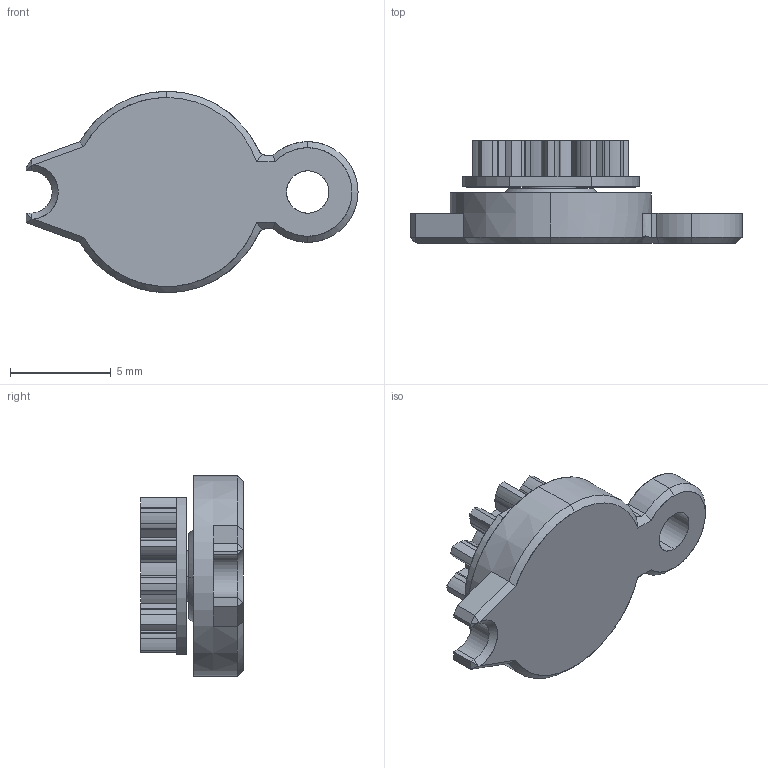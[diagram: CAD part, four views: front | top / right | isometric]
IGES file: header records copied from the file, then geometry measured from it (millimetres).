
Start section: SolidWorks IGES file using analytic representation for surfaces
Global section: file name: C:\3D-DATA\型式\R\【提出用】\IGS\FRT-E9(G2).IGS; native system: SolidWorks 2014; preprocessor: SolidWorks 2014; author: flgijutsu; date: 140516.191252; units: millimetre
Bounding box: 16.5 x 5.1 x 10 mm (x, y, z)
Surface area: 501.9 mm2 (no closed solid volume)
Topology: 0 solids, 0 shells, 169 faces, 1465 edges, 1464 vertices
Faces by surface type: revolution 116, bspline 53
